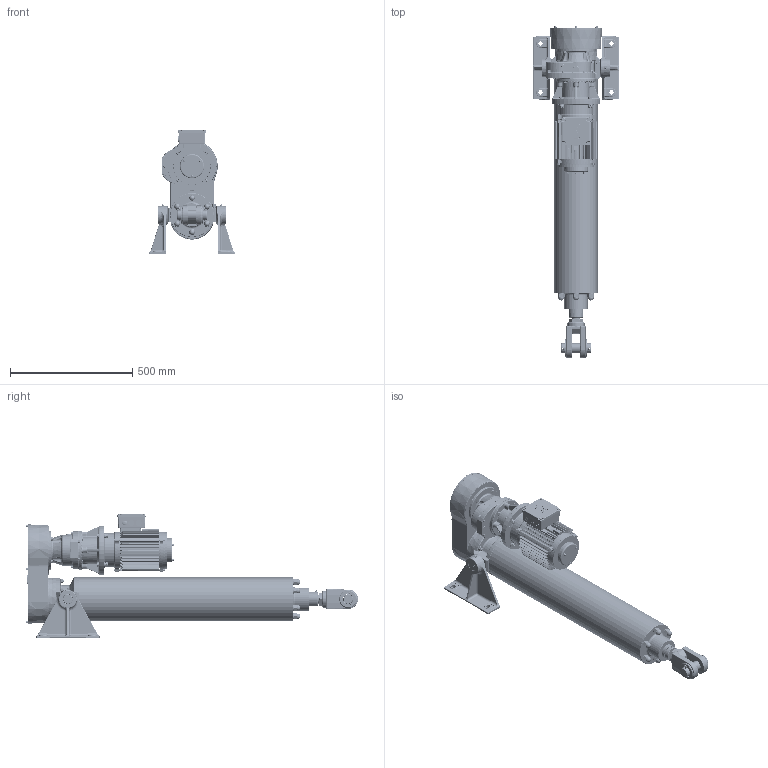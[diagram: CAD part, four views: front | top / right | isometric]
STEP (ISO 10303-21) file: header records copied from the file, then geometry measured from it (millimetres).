
FILE_DESCRIPTION( ( '153-599-4' ), '1' );
FILE_NAME( 'C:/daten/bearbeitung katalogbilder/RBs rendern/austausch pomplun/mit identnr/T1N7-0600-160-230-6.stp', 'Unknown', ( 'Christoph Hahmann' ), ( 'RACO-ELEKTRO-MASCHINEN GmbH' ), 'PSStep 17.0.49', 'Solid Edge ST 7', ' ' );
FILE_SCHEMA( ( 'AUTOMOTIVE_DESIGN { 1 0 10303 214 1 1 1 1 }' ) );
Length unit declared in the file: millimetre
Products named in the file (11): Assem1; 03.01-07 kpl; 02.14-07-0600; 01.15-07-0600; 02.01-07 kpl; 01.74-07; 01.01-07-gabelkkopf 133-277-52; BGR 6-7; 108-323-6 kpl; 12-00-07; 03.65-07-2Füße
Assembly tree (10 placements, depth 2):
  Assem1
    03.01-07 kpl
    02.14-07-0600
    01.15-07-0600
    02.01-07 kpl
    01.74-07
    01.01-07-gabelkkopf 133-277-52
    BGR 6-7
    108-323-6 kpl
    12-00-07
    03.65-07-2Füße
Bounding box: 350 x 1355.6 x 509 mm (x, y, z)
Surface area: 2825409.6 mm2 (no closed solid volume)
Topology: 0 solids, 8626 shells, 8626 faces, 43103 edges, 41594 vertices
Faces by surface type: plane 3805, cylinder 1871, bspline 1026, cone 774, torus 679, sphere 290, extrusion 175, revolution 6
Full cylindrical faces by diameter (mm): 1.6 x2, 2 x1, 2.459 x12, 3 x4, 3.242 x16, 4 x3, 4.02 x4, 4.134 x19, 4.773 x13, 4.917 x7, 5 x19, 5.3 x3, 5.4 x4, 5.5 x4, 5.7 x3, 6 x30, 6.35 x4, 6.47 x8, 6.6 x7, 6.647 x15, 6.8 x8, 7 x11, 7.33 x1, 7.5 x3, 8 x23, 8.15 x1, 8.2 x1, 8.376 x28, 8.4 x2, 8.5 x4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
Entity records: 687417 total; most frequent: CARTESIAN_POINT 312384, DIRECTION 63635, VERTEX_POINT 41039, ORIENTED_EDGE 40960, EDGE_CURVE 40960, AXIS2_PLACEMENT_3D 22891, VECTOR 17847, LINE 17672
